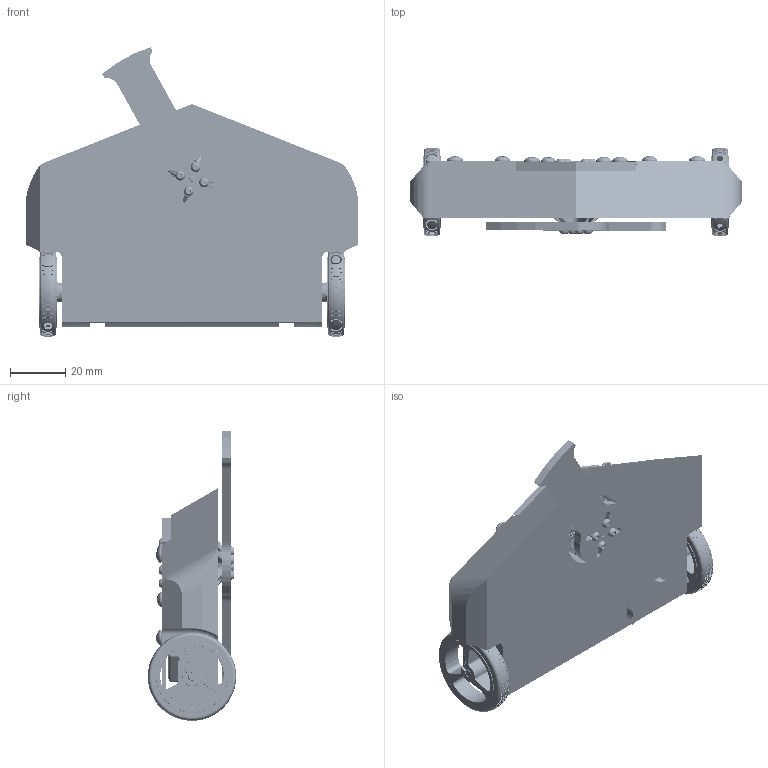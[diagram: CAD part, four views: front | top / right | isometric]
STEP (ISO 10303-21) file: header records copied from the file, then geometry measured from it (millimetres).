
FILE_DESCRIPTION (( 'STEP AP214' ), '1' );
FILE_NAME ('150G_SMOOTHIE_ASSY_001.STEP', '2020-01-10T02:25:02', ( '' ), ( '' ), 'SwSTEP 2.0', 'SolidWorks 2018', '' );
FILE_SCHEMA (( 'AUTOMOTIVE_DESIGN' ));
Length unit declared in the file: millimetre
Products named in the file (25): Header_4; DYS BE 1806 - Bobine; DYS BE 1806 - Base du stator; header; DYS BE 1806 - Lamelles du Stator; pin; DESC; 150G_SMOOTHIE_ASSY_001; 20g_3mm_TI_spinner_001_100mm; lock washer for shafts_din_Lock washer DIN 6799 - 1.2; 150_smoothie_base_001; Pololu - 1_250 Micro gear motor; DYS BE 1806 - Plaque magnétique; 91239A704_CLASS 10.9 STL BUTTON-HEAD SOCKET CAP SCREW_91239A704; DYS BE 1806 - M2 new; 90380A106_PHILLIPS THREAD-FORMING SCREW FOR PLASTIC_90380A106; DYS BE 1806 - Corps supérieur; Pololu-Wheel-32x7mm-tire___ _________; Turnigy 300mah 2s; DYS BE 1806 - Axe; DYS BE 1806 - Moteur complet; Pololu-Wheel-32x7mm___ _________; instrument ball bearing_68_iso_ISO 1224 - 380205 - R,Full,DE,AC,Full_68; Pololu-Wheel-32x7mm-rim___ _________
Assembly tree (69 placements, depth 4):
  150G_SMOOTHIE_ASSY_001
    150_smoothie_base_001
    DESC
    Turnigy 300mah 2s
    90380A106_PHILLIPS THREAD-FORMING SCREW FOR PLASTIC_90380A106  x11
    Header_4
      header  x4
        header
        pin
    DYS BE 1806 - Moteur complet
      DYS BE 1806 - Axe
      DYS BE 1806 - Corps supérieur
      DYS BE 1806 - M2 new
      DYS BE 1806 - Plaque magnétique  x12
      lock washer for shafts_din_Lock washer DIN 6799 - 1.2
      DYS BE 1806 - Base du stator
      DYS BE 1806 - Lamelles du Stator
      DYS BE 1806 - Bobine  x12
      instrument ball bearing_68_iso_ISO 1224 - 380205 - R,Full,DE,AC,Full_68  x2
    20g_3mm_TI_spinner_001_100mm
    Pololu - 1_250 Micro gear motor  x2
    Pololu-Wheel-32x7mm___ _________  x2
      Pololu-Wheel-32x7mm-tire___ _________
      Pololu-Wheel-32x7mm-rim___ _________
    91239A704_CLASS 10.9 STL BUTTON-HEAD SOCKET CAP SCREW_91239A704  x8
Bounding box: 120 x 31.96 x 104.69 mm (x, y, z)
Volume: 83226.9 mm3; surface area: 78955.3 mm2
Topology: 299 solids, 299 shells, 10900 faces, 30886 edges, 19056 vertices
Faces by surface type: plane 4784, cylinder 3359, bspline 2155, cone 355, torus 193, sphere 54
Entity records: 217432 total; most frequent: CARTESIAN_POINT 84451, ORIENTED_EDGE 28784, DIRECTION 25121, EDGE_CURVE 14392, VERTEX_POINT 9477, LINE 9409, VECTOR 9409, AXIS2_PLACEMENT_3D 7856
